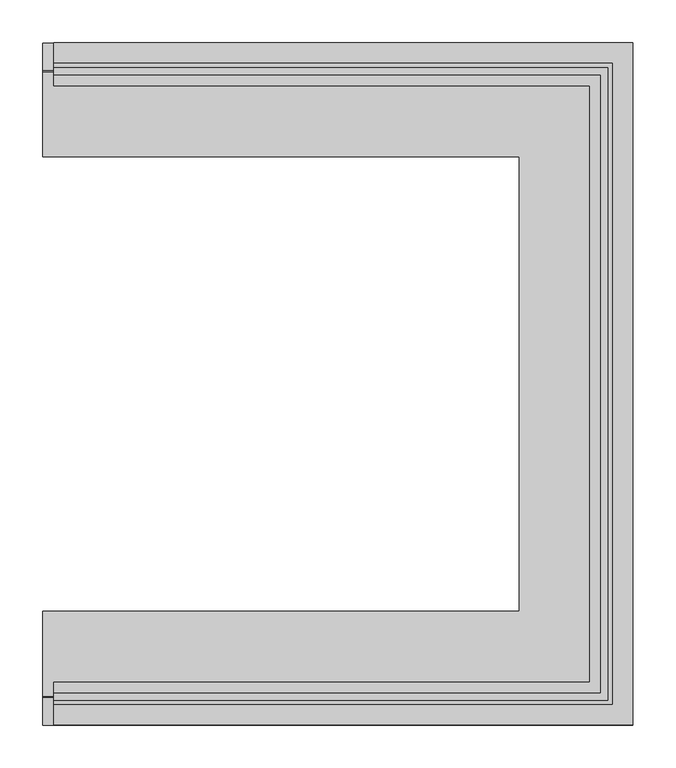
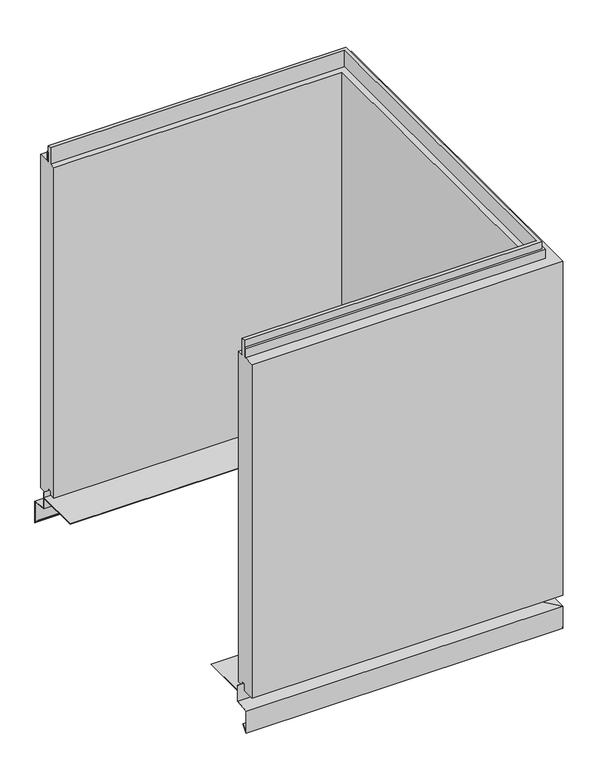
"""IFC4 building model written with IfcOpenShell, lengths in millimetres: plate geometry, Trimo_Qbiss Screen_U Corner Panel-HORIZONTAL : HR - B."""

from ifc_helpers import new_model, si_unit, frame, origin, place, context, project, spatial, polyline, outline, extrude, faceted_brep, source, transform, mapped, element, save


def plate_0f2c33d4(model_context):
    return source(origin(), model_context, "Body", "SolidModel", [
        faceted_brep([(-312.5, 111.7, 14.0835797), (-312.5, 112.5, 14.0835797), (-312.5, 112.5, -23.0), (-312.5, 145.0, -25.8433816), (-312.5, 145.0, -76.0), (-312.5, 132.1509533, -63.1509533), (-312.5, 132.7166388, -62.5852679), (-312.5, 144.2, -74.0686292), (-312.5, 144.2, -26.5764465), (-312.5, 111.7, -23.7330649), (-312.5, 111.7, 1.0), (-312.5, 12.5, 1.0), (-312.5, 12.5, 1.8), (-312.5, 111.7, 1.8), (341.7, 111.7, 14.0835797), (341.7, -616.7, 14.0835797), (-312.5, -616.7, 14.0835797), (-312.5, -617.5, 14.0835797), (342.5, -617.5, 14.0835797), (342.5, 112.5, 14.0835797), (342.5, 112.5, -23.0), (375.0, 145.0, -25.8433816), (375.0, 145.0, -76.0), (362.1509533, 132.1509533, -63.1509533), (362.7166388, 132.7166388, -62.5852679), (374.2, 144.2, -74.0686292), (374.2, 144.2, -26.5764465), (341.7, 111.7, -23.7330649), (341.7, 111.7, 1.0), (341.7, -616.7, 1.0), (-312.5, -616.7, 1.0), (-312.5, -517.5, 1.0), (242.5, -517.5, 1.0), (242.5, 12.5, 1.0), (242.5, 12.5, 1.8), (242.5, -517.5, 1.8), (-312.5, -517.5, 1.8), (-312.5, -616.7, 1.8), (341.7, -616.7, 1.8), (341.7, 111.7, 1.8), (-312.5, -616.7, -23.7330649), (-312.5, -649.2, -26.5764465), (-312.5, -649.2, -74.0686292), (-312.5, -637.7166388, -62.5852679), (-312.5, -637.1509533, -63.1509533), (-312.5, -650.0, -76.0), (-312.5, -650.0, -25.8433816), (-312.5, -617.5, -23.0), (342.5, -617.5, -23.0), (375.0, -650.0, -25.8433816), (375.0, -650.0, -76.0), (362.1509533, -637.1509533, -63.1509533), (362.7166388, -637.7166388, -62.5852679), (374.2, -649.2, -74.0686292), (374.2, -649.2, -26.5764465), (341.7, -616.7, -23.7330649)], [[[0, 1, 2, 3, 4, 5, 6, 7, 8, 9, 10, 11, 12, 13]], [[1, 0, 14, 15, 16, 17, 18, 19]], [[2, 1, 19, 20]], [[3, 2, 20, 21]], [[4, 3, 21, 22]], [[5, 4, 22, 23]], [[6, 5, 23, 24]], [[7, 6, 24, 25]], [[8, 7, 25, 26]], [[9, 8, 26, 27]], [[10, 9, 27, 28]], [[11, 10, 28, 29, 30, 31, 32, 33]], [[13, 12, 34, 35, 36, 37, 38, 39]], [[0, 13, 39, 14]], [[16, 37, 36, 31, 30, 40, 41, 42, 43, 44, 45, 46, 47, 17]], [[20, 19, 18, 48]], [[21, 20, 48, 49]], [[22, 21, 49, 50]], [[23, 22, 50, 51]], [[24, 23, 51, 52]], [[25, 24, 52, 53]], [[26, 25, 53, 54]], [[27, 26, 54, 55]], [[28, 27, 55, 29]], [[14, 39, 38, 15]], [[48, 18, 17, 47]], [[49, 48, 47, 46]], [[50, 49, 46, 45]], [[51, 50, 45, 44]], [[52, 51, 44, 43]], [[53, 52, 43, 42]], [[54, 53, 42, 41]], [[55, 54, 41, 40]], [[29, 55, 40, 30]], [[15, 38, 37, 16]], [[12, 11, 33, 34]], [[34, 33, 32, 35]], [[35, 32, 31, 36]]]),
        faceted_brep([(-300.0, 116.0, 764.95), (-300.0, 145.0, 764.95), (-300.0, 145.0, 0.0), (-300.0, 117.0, 0.0), (-300.0, 117.0, 15.5), (-300.0, 107.0, 15.5), (-300.0, 107.0, 7.0), (-300.0, 95.0, 7.0), (-300.0, 95.0, 764.95), (-300.0, 108.0, 764.95), (-300.0, 108.0, 802.45), (-300.0, 116.0, 802.45), (346.0, 116.0, 764.95), (346.0, -621.0, 764.95), (-300.0, -621.0, 764.95), (-300.0, -650.0, 764.95), (375.0, -650.0, 764.95), (375.0, 145.0, 764.95), (375.0, 145.0, 0.0), (375.0, -650.0, 0.0), (-300.0, -650.0, 0.0), (-300.0, -622.0, 0.0), (347.0, -622.0, 0.0), (347.0, 117.0, 0.0), (347.0, 117.0, 15.5), (347.0, -622.0, 15.5), (-300.0, -622.0, 15.5), (-300.0, -612.0, 15.5), (337.0, -612.0, 15.5), (337.0, 107.0, 15.5), (337.0, 107.0, 7.0), (337.0, -612.0, 7.0), (-300.0, -612.0, 7.0), (-300.0, -600.0, 7.0), (325.0, -600.0, 7.0), (325.0, 95.0, 7.0), (325.0, 95.0, 764.95), (325.0, -600.0, 764.95), (-300.0, -600.0, 764.95), (-300.0, -613.0, 764.95), (338.0, -613.0, 764.95), (338.0, 108.0, 764.95), (338.0, 108.0, 802.45), (338.0, -613.0, 802.45), (-300.0, -613.0, 802.45), (-300.0, -621.0, 802.45), (346.0, -621.0, 802.45), (346.0, 116.0, 802.45)], [[[0, 1, 2, 3, 4, 5, 6, 7, 8, 9, 10, 11]], [[1, 0, 12, 13, 14, 15, 16, 17]], [[2, 1, 17, 18]], [[3, 2, 18, 19, 20, 21, 22, 23]], [[4, 3, 23, 24]], [[5, 4, 24, 25, 26, 27, 28, 29]], [[6, 5, 29, 30]], [[7, 6, 30, 31, 32, 33, 34, 35]], [[8, 7, 35, 36]], [[9, 8, 36, 37, 38, 39, 40, 41]], [[10, 9, 41, 42]], [[11, 10, 42, 43, 44, 45, 46, 47]], [[0, 11, 47, 12]], [[14, 45, 44, 39, 38, 33, 32, 27, 26, 21, 20, 15]], [[18, 17, 16, 19]], [[24, 23, 22, 25]], [[30, 29, 28, 31]], [[36, 35, 34, 37]], [[42, 41, 40, 43]], [[12, 47, 46, 13]], [[19, 16, 15, 20]], [[25, 22, 21, 26]], [[31, 28, 27, 32]], [[37, 34, 33, 38]], [[43, 40, 39, 44]], [[13, 46, 45, 14]]]),
        extrude(outline(polyline([(-300.0, 116.0), (-300.0, 121.0), (351.0, 121.0), (351.0, -626.0), (-300.0, -626.0), (-300.0, -621.0), (346.0, -621.0), (346.0, 116.0), (-300.0, 116.0)])), frame((0.0, 0.0, 765.95), z_axis=(0.0, 0.0, 1.0), x_axis=(1.0, 0.0, 0.0)), (0.0, 0.0, 1.0), 21.0),
    ])


if __name__ == "__main__":
    model = new_model("IFC4")
    model_context = context("Model", 3, world=origin())
    ifc_project = project(units=[si_unit("LENGTHUNIT", "METRE", prefix="MILLI")], contexts=[model_context])
    site = spatial("IfcSite", under=ifc_project)
    building = spatial("IfcBuilding", under=site)
    placement = place(None, origin())
    plate_shape = plate_0f2c33d4(model_context)
    element("IfcPlate", 1, ObjectType="Trimo_Qbiss Screen_U Corner Panel-HORIZONTAL : HR - B", at=placement, inside=building, context=model_context, shape_type="MappedRepresentation", body=[
        mapped(plate_shape, transform((0.0, 0.0, 0.0), x_axis=(1.0, 0.0, 0.0), y_axis=(0.0, 1.0, 0.0), z_axis=(0.0, 0.0, 1.0))),
    ])
    save(model, "model.ifc")
